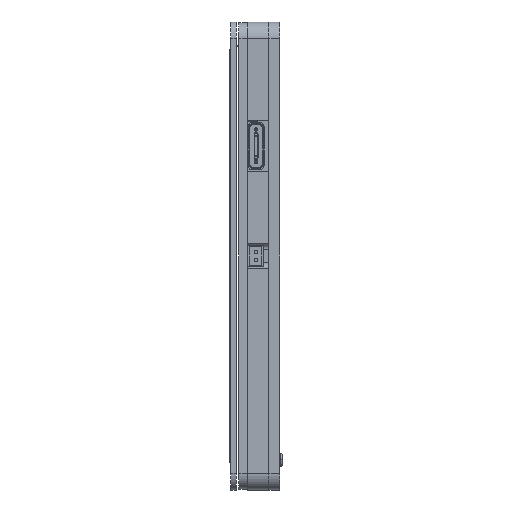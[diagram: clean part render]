
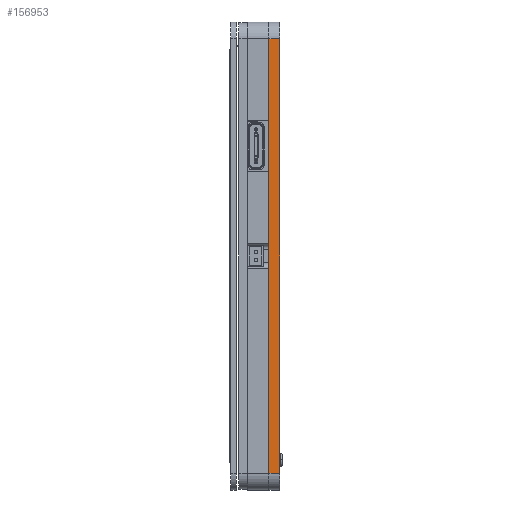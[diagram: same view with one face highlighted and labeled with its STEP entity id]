
A CAD part, left-side view. The second image highlights one B-rep face of the part: STEP entity #156953.
In plain terms, the highlighted planar face has unit normal (-1, 0, 0).
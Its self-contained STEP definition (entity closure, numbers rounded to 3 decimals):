
#155935=DIRECTION('',(0.,0.,-1.));
#155936=VECTOR('',#155935,81.);
#155937=CARTESIAN_POINT('',(-53.65,-6.1,40.5));
#155938=LINE('',#155937,#155936);
#156091=DIRECTION('',(0.,0.,-1.));
#156092=VECTOR('',#156091,81.);
#156093=CARTESIAN_POINT('',(-53.65,-8.1,40.5));
#156094=LINE('',#156093,#156092);
#156234=DIRECTION('',(0.,-1.,0.));
#156235=VECTOR('',#156234,2.);
#156236=CARTESIAN_POINT('',(-53.65,-6.1,40.5));
#156237=LINE('',#156236,#156235);
#156238=DIRECTION('',(0.,-1.,0.));
#156239=VECTOR('',#156238,2.);
#156240=CARTESIAN_POINT('',(-53.65,-6.1,-40.5));
#156241=LINE('',#156240,#156239);
#156270=CARTESIAN_POINT('',(-53.65,-6.1,40.5));
#156271=VERTEX_POINT('',#156270);
#156272=CARTESIAN_POINT('',(-53.65,-6.1,-40.5));
#156273=VERTEX_POINT('',#156272);
#156310=CARTESIAN_POINT('',(-53.65,-8.1,40.5));
#156311=VERTEX_POINT('',#156310);
#156312=CARTESIAN_POINT('',(-53.65,-8.1,-40.5));
#156313=VERTEX_POINT('',#156312);
#156941=CARTESIAN_POINT('',(-53.65,-6.1,40.5));
#156942=DIRECTION('',(-1.,0.,0.));
#156943=DIRECTION('',(0.,0.,-1.));
#156944=AXIS2_PLACEMENT_3D('',#156941,#156942,#156943);
#156945=PLANE('',#156944);
#156946=ORIENTED_EDGE('',*,*,#156389,.F.);
#156947=ORIENTED_EDGE('',*,*,#156936,.T.);
#156948=ORIENTED_EDGE('',*,*,#156507,.T.);
#156950=ORIENTED_EDGE('',*,*,#156949,.F.);
#156951=EDGE_LOOP('',(#156946,#156947,#156948,#156950));
#156952=FACE_OUTER_BOUND('',#156951,.F.);
#156953=ADVANCED_FACE('',(#156952),#156945,.T.);
#156389=EDGE_CURVE('',#156271,#156273,#155938,.T.);
#156507=EDGE_CURVE('',#156311,#156313,#156094,.T.);
#156936=EDGE_CURVE('',#156271,#156311,#156237,.T.);
#156949=EDGE_CURVE('',#156273,#156313,#156241,.T.);
